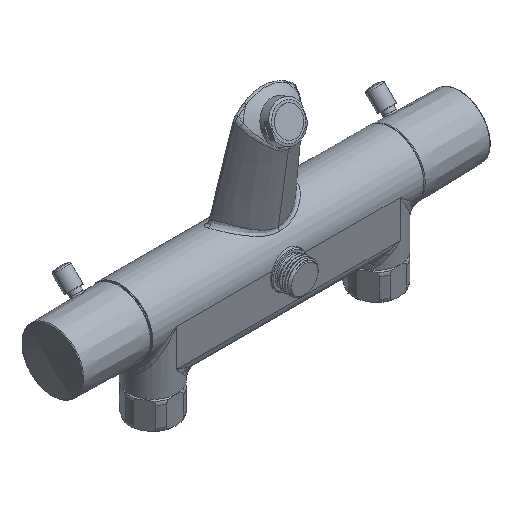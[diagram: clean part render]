
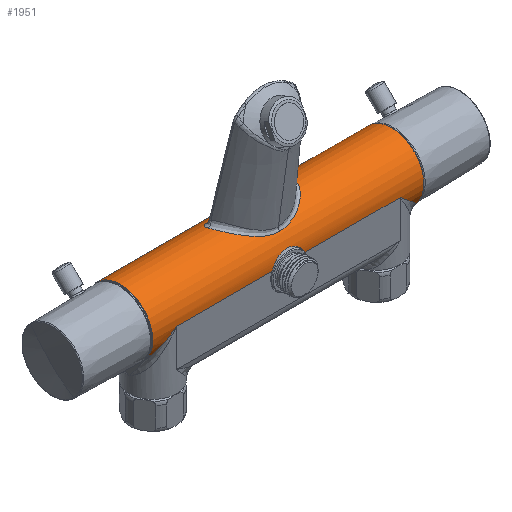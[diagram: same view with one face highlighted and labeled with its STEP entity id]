
A CAD part, isometric view. The second image highlights one B-rep face of the part: STEP entity #1951.
In plain terms, the highlighted cylindrical face has radius 21.75 mm (diameter 43.5 mm), a partial arc.
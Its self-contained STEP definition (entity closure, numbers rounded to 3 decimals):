
#21=CARTESIAN_POINT('',(91.,0.,0.));
#22=DIRECTION('',(-1.,0.,0.));
#23=DIRECTION('',(0.,-0.775,-0.632));
#24=AXIS2_PLACEMENT_3D('',#21,#22,#23);
#85=CARTESIAN_POINT('',(-91.,0.,0.));
#86=DIRECTION('',(-1.,0.,0.));
#87=DIRECTION('',(0.,-0.775,-0.632));
#88=AXIS2_PLACEMENT_3D('',#85,#86,#87);
#402=CARTESIAN_POINT('',(91.,-16.85,-13.753));
#403=CARTESIAN_POINT('',(90.586,-17.153,-13.381));
#404=CARTESIAN_POINT('',(89.706,-17.753,-12.597));
#405=CARTESIAN_POINT('',(88.187,-18.631,-11.261));
#406=CARTESIAN_POINT('',(86.579,-19.406,-9.863));
#407=CARTESIAN_POINT('',(84.943,-20.06,-8.452));
#408=CARTESIAN_POINT('',(83.324,-20.588,-7.065));
#409=CARTESIAN_POINT('',(81.666,-21.022,-5.65));
#410=CARTESIAN_POINT('',(79.819,-21.386,-4.079));
#411=CARTESIAN_POINT('',(77.677,-21.663,-2.264));
#412=CARTESIAN_POINT('',(75.937,-21.75,
-0.792));
#413=CARTESIAN_POINT('',(75.,-21.75,0.));
#415=DIRECTION('',(-1.,0.,0.));
#416=VECTOR('',#415,64.038);
#417=CARTESIAN_POINT('',(75.,-21.75,0.));
#418=LINE('',#417,#416);
#419=CARTESIAN_POINT('',(10.962,-21.75,0.));
#420=CARTESIAN_POINT('',(10.66,-21.75,0.736));
#421=CARTESIAN_POINT('',(9.924,-21.676,2.11));
#422=CARTESIAN_POINT('',(8.481,-21.422,3.882));
#423=CARTESIAN_POINT('',(6.687,-21.09,5.376));
#424=CARTESIAN_POINT('',(4.619,-20.764,6.499));
#425=CARTESIAN_POINT('',(2.338,-20.527,7.196));
#426=CARTESIAN_POINT('',(0.79,-20.47,7.35));
#427=CARTESIAN_POINT('',(0.,-20.47,7.35));
#429=CARTESIAN_POINT('',(0.,-20.47,7.35));
#430=CARTESIAN_POINT('',(-0.79,-20.47,7.35));
#431=CARTESIAN_POINT('',(-2.338,-20.527,7.196));
#432=CARTESIAN_POINT('',(-4.619,-20.764,6.499));
#433=CARTESIAN_POINT('',(-6.687,-21.09,5.376));
#434=CARTESIAN_POINT('',(-8.48,-21.422,3.883));
#435=CARTESIAN_POINT('',(-9.924,-21.676,2.11));
#436=CARTESIAN_POINT('',(-10.66,-21.75,0.736));
#437=CARTESIAN_POINT('',(-10.962,-21.75,0.));
#439=DIRECTION('',(-1.,0.,0.));
#440=VECTOR('',#439,64.038);
#441=CARTESIAN_POINT('',(-10.962,-21.75,0.));
#442=LINE('',#441,#440);
#443=CARTESIAN_POINT('',(-75.,-21.75,0.));
#444=CARTESIAN_POINT('',(-75.917,-21.75,
-0.776));
#445=CARTESIAN_POINT('',(-77.634,-21.667,
-2.228));
#446=CARTESIAN_POINT('',(-79.799,-21.391,
-4.063));
#447=CARTESIAN_POINT('',(-81.694,-21.017,
-5.673));
#448=CARTESIAN_POINT('',(-83.401,-20.566,
-7.13));
#449=CARTESIAN_POINT('',(-85.041,-20.024,
-8.537));
#450=CARTESIAN_POINT('',(-86.659,-19.371,
-9.932));
#451=CARTESIAN_POINT('',(-88.229,-18.607,
-11.298));
#452=CARTESIAN_POINT('',(-89.716,-17.746,
-12.607));
#453=CARTESIAN_POINT('',(-90.588,-17.152,
-13.383));
#454=CARTESIAN_POINT('',(-91.,-16.85,-13.753));
#456=CARTESIAN_POINT('',(-91.,8.151,-20.165));
#457=CARTESIAN_POINT('',(-90.056,8.843,-19.885));
#458=CARTESIAN_POINT('',(-88.08,10.06,-19.313));
#459=CARTESIAN_POINT('',(-84.742,11.496,-18.481));
#460=CARTESIAN_POINT('',(-81.417,12.424,-17.858));
#461=CARTESIAN_POINT('',(-78.227,12.932,-17.49));
#462=CARTESIAN_POINT('',(-75.204,13.097,-17.364));
#463=CARTESIAN_POINT('',(-72.201,12.972,-17.459));
#464=CARTESIAN_POINT('',(-69.059,12.524,-17.788));
#465=CARTESIAN_POINT('',(-65.72,11.649,-18.382));
#466=CARTESIAN_POINT('',(-63.521,10.761,-18.911));
#467=CARTESIAN_POINT('',(-62.425,10.219,-19.2));
#469=DIRECTION('',(1.,0.,0.));
#470=VECTOR('',#469,124.85);
#471=CARTESIAN_POINT('',(-62.425,10.219,-19.2));
#472=LINE('',#471,#470);
#473=CARTESIAN_POINT('',(62.426,10.219,-19.2));
#474=CARTESIAN_POINT('',(63.522,10.761,-18.911));
#475=CARTESIAN_POINT('',(65.719,11.649,-18.382));
#476=CARTESIAN_POINT('',(69.059,12.524,-17.788));
#477=CARTESIAN_POINT('',(72.2,12.972,-17.459));
#478=CARTESIAN_POINT('',(75.204,13.097,-17.364));
#479=CARTESIAN_POINT('',(78.227,12.932,-17.49));
#480=CARTESIAN_POINT('',(81.417,12.424,-17.858));
#481=CARTESIAN_POINT('',(84.742,11.496,-18.481));
#482=CARTESIAN_POINT('',(88.08,10.06,-19.313));
#483=CARTESIAN_POINT('',(90.056,8.843,-19.885));
#484=CARTESIAN_POINT('',(91.,8.151,-20.165));
#1563=CARTESIAN_POINT('',(75.,-21.75,0.));
#1564=VERTEX_POINT('',#1563);
#1565=CARTESIAN_POINT('',(-75.,-21.75,0.));
#1566=VERTEX_POINT('',#1565);
#1567=CARTESIAN_POINT('',(-62.425,10.219,
-19.2));
#1568=CARTESIAN_POINT('',(62.426,10.219,-19.2));
#1569=VERTEX_POINT('',#1567);
#1570=VERTEX_POINT('',#1568);
#1603=CARTESIAN_POINT('',(91.,-16.85,-13.753));
#1604=CARTESIAN_POINT('',(91.,8.151,-20.165));
#1605=VERTEX_POINT('',#1603);
#1606=VERTEX_POINT('',#1604);
#1609=VERTEX_POINT('',#429);
#1610=VERTEX_POINT('',#437);
#1613=VERTEX_POINT('',#419);
#1614=CARTESIAN_POINT('',(-91.,-16.85,-13.753));
#1615=CARTESIAN_POINT('',(-91.,8.151,-20.165));
#1616=VERTEX_POINT('',#1614);
#1617=VERTEX_POINT('',#1615);
#1924=CARTESIAN_POINT('',(-92.5,0.,0.));
#1925=DIRECTION('',(1.,0.,0.));
#1926=DIRECTION('',(0.,0.,1.));
#1927=AXIS2_PLACEMENT_3D('',#1924,#1925,#1926);
#1928=CYLINDRICAL_SURFACE('',#1927,21.75);
#1929=ORIENTED_EDGE('',*,*,#1679,.F.);
#1931=ORIENTED_EDGE('',*,*,#1930,.T.);
#1933=ORIENTED_EDGE('',*,*,#1932,.T.);
#1935=ORIENTED_EDGE('',*,*,#1934,.T.);
#1937=ORIENTED_EDGE('',*,*,#1936,.T.);
#1939=ORIENTED_EDGE('',*,*,#1938,.T.);
#1941=ORIENTED_EDGE('',*,*,#1940,.T.);
#1942=ORIENTED_EDGE('',*,*,#1748,.T.);
#1944=ORIENTED_EDGE('',*,*,#1943,.T.);
#1946=ORIENTED_EDGE('',*,*,#1945,.T.);
#1948=ORIENTED_EDGE('',*,*,#1947,.T.);
#1949=EDGE_LOOP('',(#1929,#1931,#1933,#1935,#1937,#1939,#1941,#1942,#1944,#1946,
#1948));
#1950=FACE_OUTER_BOUND('',#1949,.F.);
#25=CIRCLE('',#24,21.75);
#89=CIRCLE('',#88,21.75);
#414=B_SPLINE_CURVE_WITH_KNOTS('',3,(#402,#403,#404,#405,#406,#407,#408,#409,
#410,#411,#412,#413),.UNSPECIFIED.,.F.,.F.,(4,1,1,1,1,1,1,1,1,4),(0.,
0.111,0.222,0.333,0.444,
0.556,0.667,0.778,0.889,1.),
.UNSPECIFIED.);
#428=B_SPLINE_CURVE_WITH_KNOTS('',3,(#419,#420,#421,#422,#423,#424,#425,#426,
#427),.UNSPECIFIED.,.F.,.F.,(4,1,1,1,1,1,4),(0.,0.167,
0.333,0.5,0.667,0.833,1.),
.UNSPECIFIED.);
#438=B_SPLINE_CURVE_WITH_KNOTS('',3,(#429,#430,#431,#432,#433,#434,#435,#436,
#437),.UNSPECIFIED.,.F.,.F.,(4,1,1,1,1,1,4),(0.,0.167,
0.333,0.5,0.667,0.833,1.),
.UNSPECIFIED.);
#455=B_SPLINE_CURVE_WITH_KNOTS('',3,(#443,#444,#445,#446,#447,#448,#449,#450,
#451,#452,#453,#454),.UNSPECIFIED.,.F.,.F.,(4,1,1,1,1,1,1,1,1,4),(0.,
0.111,0.222,0.333,0.444,
0.556,0.667,0.778,0.889,1.),
.UNSPECIFIED.);
#468=B_SPLINE_CURVE_WITH_KNOTS('',3,(#456,#457,#458,#459,#460,#461,#462,#463,
#464,#465,#466,#467),.UNSPECIFIED.,.F.,.F.,(4,1,1,1,1,1,1,1,1,4),(0.,
0.111,0.222,0.333,0.444,
0.556,0.667,0.778,0.889,1.),
.UNSPECIFIED.);
#485=B_SPLINE_CURVE_WITH_KNOTS('',3,(#473,#474,#475,#476,#477,#478,#479,#480,
#481,#482,#483,#484),.UNSPECIFIED.,.F.,.F.,(4,1,1,1,1,1,1,1,1,4),(0.,
0.111,0.222,0.333,0.444,
0.556,0.667,0.778,0.889,1.),
.UNSPECIFIED.);
#1679=EDGE_CURVE('',#1605,#1606,#25,.T.);
#1748=EDGE_CURVE('',#1616,#1617,#89,.T.);
#1930=EDGE_CURVE('',#1605,#1564,#414,.T.);
#1932=EDGE_CURVE('',#1564,#1613,#418,.T.);
#1934=EDGE_CURVE('',#1613,#1609,#428,.T.);
#1936=EDGE_CURVE('',#1609,#1610,#438,.T.);
#1938=EDGE_CURVE('',#1610,#1566,#442,.T.);
#1940=EDGE_CURVE('',#1566,#1616,#455,.T.);
#1943=EDGE_CURVE('',#1617,#1569,#468,.T.);
#1945=EDGE_CURVE('',#1569,#1570,#472,.T.);
#1947=EDGE_CURVE('',#1570,#1606,#485,.T.);
#1951=ADVANCED_FACE('',(#1950),#1928,.T.);
